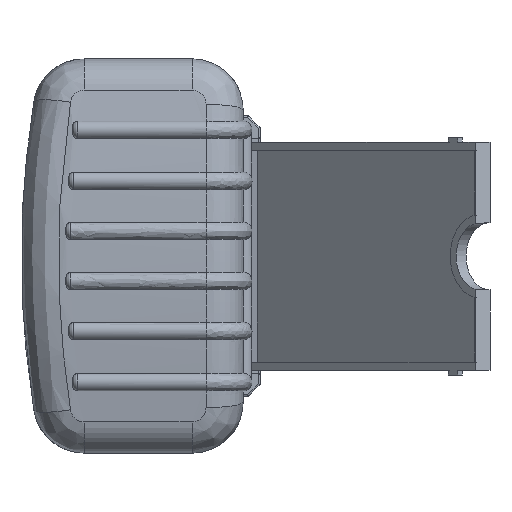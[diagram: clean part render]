
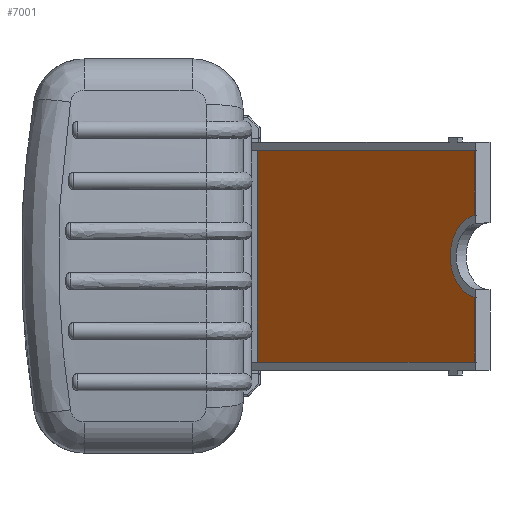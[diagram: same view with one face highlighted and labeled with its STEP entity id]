
A CAD part, left-side view. The second image highlights one B-rep face of the part: STEP entity #7001.
In plain terms, the highlighted planar face has unit normal (-0.714, 0.7, 0) as drawn and (0, -1, 0) by its records, which use the part's own axes.
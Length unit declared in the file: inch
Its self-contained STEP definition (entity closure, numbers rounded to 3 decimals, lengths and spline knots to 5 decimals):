
#265 = AXIS2_PLACEMENT_3D ( 'NONE', #8710, #13872, #6154 ) ;
#903 = LINE ( 'NONE', #2720, #14682 ) ;
#943 = CARTESIAN_POINT ( 'NONE',  ( 1.33177, -0.081, -0.8985 ) ) ;
#976 = VERTEX_POINT ( 'NONE', #15257 ) ;
#1395 = DIRECTION ( 'NONE',  ( -1., 0., 0. ) ) ;
#1861 = CARTESIAN_POINT ( 'NONE',  ( -1.285, -0.081, 0.34803 ) ) ;
#2720 = CARTESIAN_POINT ( 'NONE',  ( 1.48016, -0.081, 0.8985 ) ) ;
#2751 = CARTESIAN_POINT ( 'NONE',  ( 1.48016, -0.081, -0.8985 ) ) ;
#2783 = ORIENTED_EDGE ( 'NONE', *, *, #5724, .F. ) ;
#3067 = DIRECTION ( 'NONE',  ( 0., 0., -1. ) ) ;
#3423 = VECTOR ( 'NONE', #3067, 39.37008 ) ;
#3444 = VERTEX_POINT ( 'NONE', #943 ) ;
#3716 = LINE ( 'NONE', #10880, #7588 ) ;
#3846 = VERTEX_POINT ( 'NONE', #16392 ) ;
#4181 = FACE_OUTER_BOUND ( 'NONE', #5868, .T. ) ;
#4191 = VERTEX_POINT ( 'NONE', #1861 ) ;
#4329 = ORIENTED_EDGE ( 'NONE', *, *, #16356, .F. ) ;
#4341 = CARTESIAN_POINT ( 'NONE',  ( -1.285, -0.081, -0.8985 ) ) ;
#4534 = VECTOR ( 'NONE', #11265, 39.37008 ) ;
#4821 = PLANE ( 'NONE',  #265 ) ;
#5662 = DIRECTION ( 'NONE',  ( 0., 0., 1. ) ) ;
#5665 = ORIENTED_EDGE ( 'NONE', *, *, #11067, .F. ) ;
#5681 = CARTESIAN_POINT ( 'NONE',  ( 1.33177, -0.081, 0.9685 ) ) ;
#5724 = EDGE_CURVE ( 'NONE', #8151, #3444, #7690, .T. ) ;
#5868 = EDGE_LOOP ( 'NONE', ( #5665, #4329, #2783, #13497, #5969, #15110 ) ) ;
#5969 = ORIENTED_EDGE ( 'NONE', *, *, #10231, .F. ) ;
#6035 = CIRCLE ( 'NONE', #15602, 0.355 ) ;
#6154 = DIRECTION ( 'NONE',  ( 0., 0., 1. ) ) ;
#6199 = CARTESIAN_POINT ( 'NONE',  ( -1.355, -0.081, 0. ) ) ;
#6308 = VERTEX_POINT ( 'NONE', #4341 ) ;
#7001 = ADVANCED_FACE ( 'NONE', ( #4181 ), #4821, .F. ) ;
#7495 = DIRECTION ( 'NONE',  ( 0., 0., -1. ) ) ;
#7588 = VECTOR ( 'NONE', #5662, 39.37008 ) ;
#7690 = LINE ( 'NONE', #5681, #3423 ) ;
#7718 = EDGE_CURVE ( 'NONE', #3846, #4191, #6035, .T. ) ;
#7993 = LINE ( 'NONE', #16406, #4534 ) ;
#8151 = VERTEX_POINT ( 'NONE', #10355 ) ;
#8710 = CARTESIAN_POINT ( 'NONE',  ( -1.355, -0.081, 0.9685 ) ) ;
#9264 = EDGE_CURVE ( 'NONE', #8151, #976, #903, .T. ) ;
#9900 = VECTOR ( 'NONE', #15726, 39.37008 ) ;
#10231 = EDGE_CURVE ( 'NONE', #4191, #976, #7993, .T. ) ;
#10355 = CARTESIAN_POINT ( 'NONE',  ( 1.33177, -0.081, 0.8985 ) ) ;
#10880 = CARTESIAN_POINT ( 'NONE',  ( -1.285, -0.081, -0.34803 ) ) ;
#11067 = EDGE_CURVE ( 'NONE', #6308, #3846, #3716, .T. ) ;
#11265 = DIRECTION ( 'NONE',  ( 0., 0., 1. ) ) ;
#13291 = LINE ( 'NONE', #2751, #9900 ) ;
#13497 = ORIENTED_EDGE ( 'NONE', *, *, #9264, .T. ) ;
#13872 = DIRECTION ( 'NONE',  ( 0., 1., 0. ) ) ;
#14682 = VECTOR ( 'NONE', #1395, 39.37008 ) ;
#15110 = ORIENTED_EDGE ( 'NONE', *, *, #7718, .F. ) ;
#15238 = DIRECTION ( 'NONE',  ( 0., -1., 0. ) ) ;
#15257 = CARTESIAN_POINT ( 'NONE',  ( -1.285, -0.081, 0.8985 ) ) ;
#15602 = AXIS2_PLACEMENT_3D ( 'NONE', #6199, #15238, #7495 ) ;
#15726 = DIRECTION ( 'NONE',  ( -1., 0., 0. ) ) ;
#16356 = EDGE_CURVE ( 'NONE', #3444, #6308, #13291, .T. ) ;
#16392 = CARTESIAN_POINT ( 'NONE',  ( -1.285, -0.081, -0.34803 ) ) ;
#16406 = CARTESIAN_POINT ( 'NONE',  ( -1.285, -0.081, 0.8985 ) ) ;
